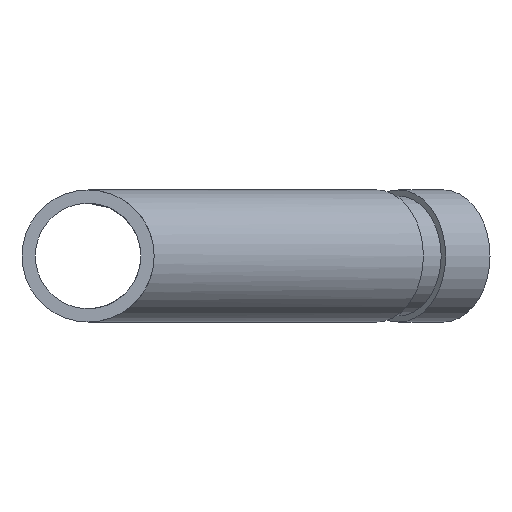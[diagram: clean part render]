
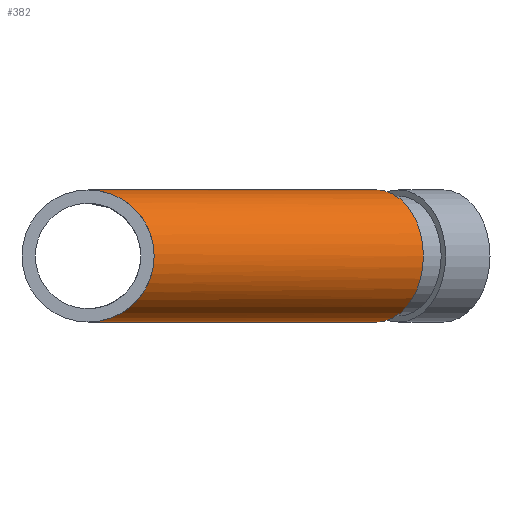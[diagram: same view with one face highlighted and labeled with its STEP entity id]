
A CAD part, front view. The second image highlights one B-rep face of the part: STEP entity #382.
In plain terms, the highlighted cylindrical face has radius 16.701 mm (diameter 33.401 mm), a full revolution.
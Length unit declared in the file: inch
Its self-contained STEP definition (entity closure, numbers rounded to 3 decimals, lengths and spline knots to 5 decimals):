
#45=ELLIPSE('',#439,1.71813,0.6575);
#46=ELLIPSE('',#440,1.71813,0.6575);
#47=ELLIPSE('',#441,0.71167,0.6575);
#61=LINE('',#709,#72);
#72=VECTOR('',#580,0.6575);
#82=CYLINDRICAL_SURFACE('',#454,0.6575);
#108=FACE_OUTER_BOUND('',#134,.T.);
#134=EDGE_LOOP('',(#319,#320,#321,#322,#323,#324));
#142=CIRCLE('',#408,0.6575);
#169=VERTEX_POINT('',#620);
#189=VERTEX_POINT('',#677);
#190=VERTEX_POINT('',#678);
#191=VERTEX_POINT('',#680);
#203=EDGE_CURVE('',#169,#169,#142,.T.);
#229=EDGE_CURVE('',#189,#190,#45,.T.);
#230=EDGE_CURVE('',#190,#191,#46,.T.);
#231=EDGE_CURVE('',#191,#189,#47,.T.);
#245=EDGE_CURVE('',#190,#169,#61,.T.);
#319=ORIENTED_EDGE('',*,*,#231,.F.);
#320=ORIENTED_EDGE('',*,*,#230,.F.);
#321=ORIENTED_EDGE('',*,*,#245,.T.);
#322=ORIENTED_EDGE('',*,*,#203,.T.);
#323=ORIENTED_EDGE('',*,*,#245,.F.);
#324=ORIENTED_EDGE('',*,*,#229,.F.);
#382=ADVANCED_FACE('',(#108),#82,.T.);
#408=AXIS2_PLACEMENT_3D('',#621,#477,#478);
#439=AXIS2_PLACEMENT_3D('',#679,#545,#546);
#440=AXIS2_PLACEMENT_3D('',#681,#547,#548);
#441=AXIS2_PLACEMENT_3D('',#682,#549,#550);
#454=AXIS2_PLACEMENT_3D('',#708,#578,#579);
#477=DIRECTION('center_axis',(-0.707,-0.707,0.));
#478=DIRECTION('ref_axis',(0.707,-0.707,0.));
#545=DIRECTION('center_axis',(-0.924,0.383,0.));
#546=DIRECTION('ref_axis',(-0.383,-0.924,0.));
#547=DIRECTION('center_axis',(-0.924,0.383,0.));
#548=DIRECTION('ref_axis',(-0.383,-0.924,0.));
#549=DIRECTION('center_axis',(-0.383,-0.924,0.));
#550=DIRECTION('ref_axis',(0.924,-0.383,0.));
#578=DIRECTION('center_axis',(-0.707,-0.707,0.));
#579=DIRECTION('ref_axis',(0.707,-0.707,0.));
#580=DIRECTION('',(0.707,0.707,0.));
#620=CARTESIAN_POINT('',(2.40735,3.33719,0.));
#621=CARTESIAN_POINT('Origin',(2.87227,2.87227,0.));
#677=CARTESIAN_POINT('',(0.,0.,0.6575));
#678=CARTESIAN_POINT('',(0.6575,1.58735,0.));
#679=CARTESIAN_POINT('Origin',(0.,0.,0.));
#680=CARTESIAN_POINT('',(0.,0.,-0.6575));
#681=CARTESIAN_POINT('Origin',(0.,0.,0.));
#682=CARTESIAN_POINT('Origin',(0.,0.,0.));
#708=CARTESIAN_POINT('Origin',(3.53553,3.53553,0.));
#709=CARTESIAN_POINT('',(3.07061,4.00046,0.));
